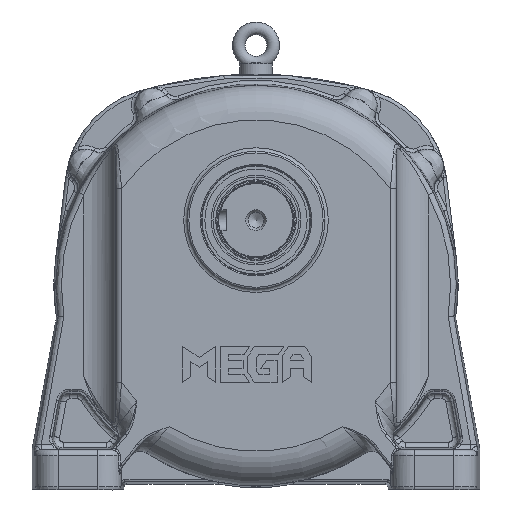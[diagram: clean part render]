
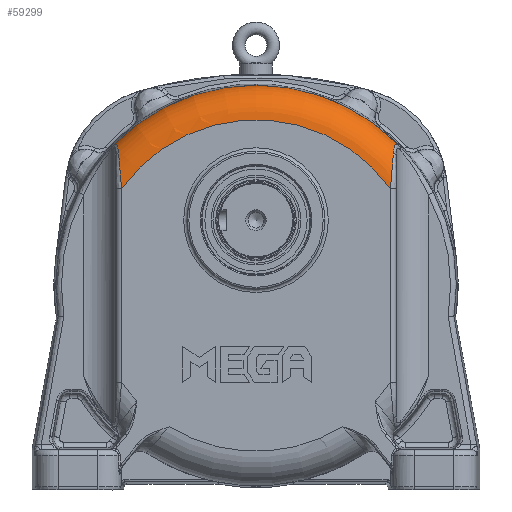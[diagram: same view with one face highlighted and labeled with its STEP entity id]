
A CAD part, front view. The second image highlights one B-rep face of the part: STEP entity #59299.
In plain terms, the highlighted toroidal (fillet/blend) face has major radius 144.309 mm and minor radius 30 mm.
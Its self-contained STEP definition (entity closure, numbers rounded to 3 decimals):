
#1797=TOROIDAL_SURFACE('',#64568,144.309,30.);
#4789=FACE_OUTER_BOUND('',#8463,.T.);
#8463=EDGE_LOOP('',(#45065,#45066,#45067,#45068,#45069,#45070));
#12004=CIRCLE('',#64041,144.309);
#12319=CIRCLE('',#64569,174.308);
#21291=B_SPLINE_CURVE_WITH_KNOTS('',3,(#111383,#111384,#111385,#111386,
#111387,#111388,#111389,#111390),.UNSPECIFIED.,.F.,.F.,(4,1,1,1,1,4),(0.,
0.574,0.862,1.436,1.723,2.011),
 .UNSPECIFIED.);
#21292=B_SPLINE_CURVE_WITH_KNOTS('',3,(#111423,#111424,#111425,#111426,
#111427),.UNSPECIFIED.,.F.,.F.,(4,1,4),(-3.01,-1.29,
0.),.UNSPECIFIED.);
#21304=B_SPLINE_CURVE_WITH_KNOTS('',3,(#111810,#111811,#111812,#111813,
#111814,#111815),.UNSPECIFIED.,.F.,.F.,(4,1,1,4),(-3.01,-2.15,
-1.29,0.),.UNSPECIFIED.);
#21306=B_SPLINE_CURVE_WITH_KNOTS('',3,(#111865,#111866,#111867,#111868,
#111869,#111870,#111871,#111872),.UNSPECIFIED.,.F.,.F.,(4,1,1,1,1,4),(-2.011,
-1.723,-1.436,-0.862,-0.574,
0.),.UNSPECIFIED.);
#24720=VERTEX_POINT('',#105025);
#24721=VERTEX_POINT('',#105027);
#25150=VERTEX_POINT('',#111316);
#25152=VERTEX_POINT('',#111381);
#25165=VERTEX_POINT('',#111808);
#25167=VERTEX_POINT('',#111863);
#31425=EDGE_CURVE('',#24721,#24720,#12004,.T.);
#32134=EDGE_CURVE('',#25152,#25150,#21291,.T.);
#32136=EDGE_CURVE('',#24721,#25152,#21292,.T.);
#32159=EDGE_CURVE('',#25165,#24720,#21304,.T.);
#32162=EDGE_CURVE('',#25167,#25165,#21306,.T.);
#32168=EDGE_CURVE('',#25167,#25150,#12319,.T.);
#45065=ORIENTED_EDGE('',*,*,#32136,.F.);
#45066=ORIENTED_EDGE('',*,*,#31425,.T.);
#45067=ORIENTED_EDGE('',*,*,#32159,.F.);
#45068=ORIENTED_EDGE('',*,*,#32162,.F.);
#45069=ORIENTED_EDGE('',*,*,#32168,.T.);
#45070=ORIENTED_EDGE('',*,*,#32134,.F.);
#59299=ADVANCED_FACE('',(#4789),#1797,.T.);
#64041=AXIS2_PLACEMENT_3D('',#105028,#75252,#75253);
#64568=AXIS2_PLACEMENT_3D('',#111949,#76489,#76490);
#64569=AXIS2_PLACEMENT_3D('',#111950,#76491,#76492);
#75252=DIRECTION('center_axis',(0.,1.,0.));
#75253=DIRECTION('ref_axis',(-1.,0.,0.));
#76489=DIRECTION('center_axis',(0.,1.,0.));
#76490=DIRECTION('ref_axis',(0.,0.,1.));
#76491=DIRECTION('center_axis',(0.,-1.,0.));
#76492=DIRECTION('ref_axis',(-1.,0.,0.));
#105025=CARTESIAN_POINT('',(104.309,-19.258,82.726));
#105027=CARTESIAN_POINT('',(-129.691,-19.258,82.726));
#105028=CARTESIAN_POINT('Origin',(-12.691,-19.258,-1.75));
#111316=CARTESIAN_POINT('',(-137.843,10.431,119.577));
#111381=CARTESIAN_POINT('',(-132.328,-9.658,113.768));
#111383=CARTESIAN_POINT('Ctrl Pts',(-132.328,-9.658,
113.768));
#111384=CARTESIAN_POINT('Ctrl Pts',(-132.464,-8.28,
115.467));
#111385=CARTESIAN_POINT('Ctrl Pts',(-132.747,-5.886,
117.822));
#111386=CARTESIAN_POINT('Ctrl Pts',(-133.662,-0.986,
120.65));
#111387=CARTESIAN_POINT('Ctrl Pts',(-134.896,3.515,
121.518));
#111388=CARTESIAN_POINT('Ctrl Pts',(-136.522,7.679,
120.773));
#111389=CARTESIAN_POINT('Ctrl Pts',(-137.396,9.55,
120.024));
#111390=CARTESIAN_POINT('Ctrl Pts',(-137.843,10.431,
119.577));
#111423=CARTESIAN_POINT('Ctrl Pts',(-129.691,-19.258,
82.726));
#111424=CARTESIAN_POINT('Ctrl Pts',(-130.235,-19.258,
88.852));
#111425=CARTESIAN_POINT('Ctrl Pts',(-131.187,-17.871,
99.762));
#111426=CARTESIAN_POINT('Ctrl Pts',(-132.023,-12.751,
109.954));
#111427=CARTESIAN_POINT('Ctrl Pts',(-132.328,-9.658,
113.768));
#111808=CARTESIAN_POINT('',(106.946,-9.658,113.768));
#111810=CARTESIAN_POINT('Ctrl Pts',(106.946,-9.658,
113.768));
#111811=CARTESIAN_POINT('Ctrl Pts',(106.743,-11.72,
111.226));
#111812=CARTESIAN_POINT('Ctrl Pts',(106.288,-15.051,105.632));
#111813=CARTESIAN_POINT('Ctrl Pts',(105.397,-18.506,95.069));
#111814=CARTESIAN_POINT('Ctrl Pts',(104.717,-19.258,
87.321));
#111815=CARTESIAN_POINT('Ctrl Pts',(104.309,-19.258,
82.726));
#111863=CARTESIAN_POINT('',(112.46,10.431,119.577));
#111865=CARTESIAN_POINT('Ctrl Pts',(112.46,10.431,119.577));
#111866=CARTESIAN_POINT('Ctrl Pts',(112.014,9.55,120.024));
#111867=CARTESIAN_POINT('Ctrl Pts',(111.14,7.678,120.774));
#111868=CARTESIAN_POINT('Ctrl Pts',(109.514,3.515,121.518));
#111869=CARTESIAN_POINT('Ctrl Pts',(108.279,-0.986,
120.65));
#111870=CARTESIAN_POINT('Ctrl Pts',(107.364,-5.886,
117.822));
#111871=CARTESIAN_POINT('Ctrl Pts',(107.082,-8.28,
115.467));
#111872=CARTESIAN_POINT('Ctrl Pts',(106.946,-9.658,113.768));
#111949=CARTESIAN_POINT('Origin',(-12.691,10.742,-1.75));
#111950=CARTESIAN_POINT('Origin',(-12.691,10.431,-1.75));
